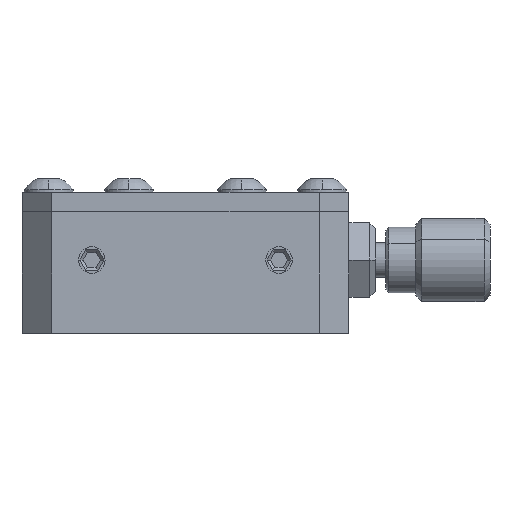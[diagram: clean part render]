
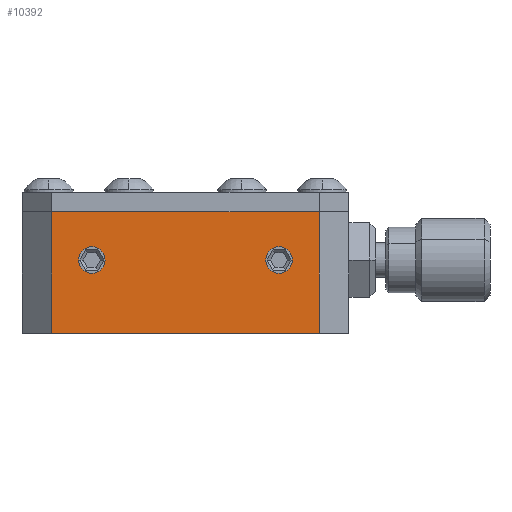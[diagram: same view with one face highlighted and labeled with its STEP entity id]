
A CAD part, front view. The second image highlights one B-rep face of the part: STEP entity #10392.
In plain terms, the highlighted planar face has unit normal (0, -1, 0).
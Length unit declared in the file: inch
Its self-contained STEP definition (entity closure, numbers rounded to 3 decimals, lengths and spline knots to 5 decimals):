
#72 = AXIS2_PLACEMENT_3D ( 'NONE', #31446, #14493, #34272 ) ;
#416 = ORIENTED_EDGE ( 'NONE', *, *, #6882, .F. ) ;
#1156 = CARTESIAN_POINT ( 'NONE',  ( -0.3218, -0.52574, -0.1334 ) ) ;
#2518 = EDGE_LOOP ( 'NONE', ( #23769, #34359 ) ) ;
#2927 = EDGE_CURVE ( 'NONE', #8785, #13438, #16876, .T. ) ;
#3390 = CIRCLE ( 'NONE', #34064, 0.0445 ) ;
#3573 = CARTESIAN_POINT ( 'NONE',  ( -0.3218, -0.52574, -0.1334 ) ) ;
#3694 = CARTESIAN_POINT ( 'NONE',  ( 0.3082, -0.52574, -0.0889 ) ) ;
#4003 = DIRECTION ( 'NONE',  ( 0., 0., -1. ) ) ;
#4028 = VECTOR ( 'NONE', #19243, 39.37008 ) ;
#4897 = LINE ( 'NONE', #30551, #4028 ) ;
#5958 = EDGE_CURVE ( 'NONE', #6004, #34971, #12552, .T. ) ;
#6004 = VERTEX_POINT ( 'NONE', #3694 ) ;
#6381 = DIRECTION ( 'NONE',  ( 0., 0., -1. ) ) ;
#6882 = EDGE_CURVE ( 'NONE', #34971, #6004, #26459, .T. ) ;
#7721 = DIRECTION ( 'NONE',  ( 0., 1., 0. ) ) ;
#7819 = DIRECTION ( 'NONE',  ( -1., 0., 0. ) ) ;
#7874 = FACE_BOUND ( 'NONE', #11134, .T. ) ;
#8055 = EDGE_CURVE ( 'NONE', #19258, #24449, #3390, .T. ) ;
#8201 = DIRECTION ( 'NONE',  ( 0., -1., 0. ) ) ;
#8544 = VECTOR ( 'NONE', #19260, 39.37008 ) ;
#8785 = VERTEX_POINT ( 'NONE', #32626 ) ;
#10322 = PLANE ( 'NONE',  #28462 ) ;
#10392 = ADVANCED_FACE ( 'NONE', ( #7874, #30373, #15341 ), #10322, .F. ) ;
#10533 = ORIENTED_EDGE ( 'NONE', *, *, #31584, .F. ) ;
#11134 = EDGE_LOOP ( 'NONE', ( #416, #19330 ) ) ;
#11495 = CIRCLE ( 'NONE', #36611, 0.0445 ) ;
#11549 = CARTESIAN_POINT ( 'NONE',  ( -0.3218, -0.52574, -0.1779 ) ) ;
#12552 = CIRCLE ( 'NONE', #72, 0.0445 ) ;
#12629 = CARTESIAN_POINT ( 'NONE',  ( -0.4568, -0.52574, -0.3804 ) ) ;
#13126 = ORIENTED_EDGE ( 'NONE', *, *, #2927, .T. ) ;
#13139 = VECTOR ( 'NONE', #7819, 39.37008 ) ;
#13438 = VERTEX_POINT ( 'NONE', #21442 ) ;
#14493 = DIRECTION ( 'NONE',  ( 0., -1., 0. ) ) ;
#14935 = EDGE_CURVE ( 'NONE', #13438, #31288, #4897, .T. ) ;
#15341 = FACE_OUTER_BOUND ( 'NONE', #32007, .T. ) ;
#15436 = EDGE_CURVE ( 'NONE', #8785, #24688, #20604, .T. ) ;
#15469 = ORIENTED_EDGE ( 'NONE', *, *, #15436, .F. ) ;
#16876 = LINE ( 'NONE', #24249, #8544 ) ;
#17274 = AXIS2_PLACEMENT_3D ( 'NONE', #25050, #8201, #27931 ) ;
#17891 = EDGE_CURVE ( 'NONE', #24449, #19258, #11495, .T. ) ;
#18968 = CARTESIAN_POINT ( 'NONE',  ( -0.0068, -0.52574, -0.3804 ) ) ;
#19243 = DIRECTION ( 'NONE',  ( -1., 0., 0. ) ) ;
#19258 = VERTEX_POINT ( 'NONE', #31796 ) ;
#19260 = DIRECTION ( 'NONE',  ( 0., 0., 1. ) ) ;
#19330 = ORIENTED_EDGE ( 'NONE', *, *, #5958, .F. ) ;
#20604 = LINE ( 'NONE', #18968, #13139 ) ;
#20808 = DIRECTION ( 'NONE',  ( 0., -1., 0. ) ) ;
#21442 = CARTESIAN_POINT ( 'NONE',  ( 0.4432, -0.52574, 0.0296 ) ) ;
#23217 = DIRECTION ( 'NONE',  ( 0., -1., 0. ) ) ;
#23769 = ORIENTED_EDGE ( 'NONE', *, *, #17891, .F. ) ;
#23791 = CARTESIAN_POINT ( 'NONE',  ( -0.4568, -0.52574, -0.3804 ) ) ;
#24249 = CARTESIAN_POINT ( 'NONE',  ( 0.4432, -0.52574, -0.3804 ) ) ;
#24449 = VERTEX_POINT ( 'NONE', #11549 ) ;
#24575 = CARTESIAN_POINT ( 'NONE',  ( -0.0068, -0.52574, -0.3804 ) ) ;
#24688 = VERTEX_POINT ( 'NONE', #12629 ) ;
#25050 = CARTESIAN_POINT ( 'NONE',  ( 0.3082, -0.52574, -0.1334 ) ) ;
#26299 = CARTESIAN_POINT ( 'NONE',  ( 0.3082, -0.52574, -0.1779 ) ) ;
#26459 = CIRCLE ( 'NONE', #17274, 0.0445 ) ;
#26642 = DIRECTION ( 'NONE',  ( 0., 0., 1. ) ) ;
#27447 = ORIENTED_EDGE ( 'NONE', *, *, #14935, .T. ) ;
#27449 = DIRECTION ( 'NONE',  ( -1., 0., 0. ) ) ;
#27931 = DIRECTION ( 'NONE',  ( 0., 0., -1. ) ) ;
#28462 = AXIS2_PLACEMENT_3D ( 'NONE', #24575, #7721, #27449 ) ;
#30373 = FACE_BOUND ( 'NONE', #2518, .T. ) ;
#30551 = CARTESIAN_POINT ( 'NONE',  ( -0.0068, -0.52574, 0.0296 ) ) ;
#31288 = VERTEX_POINT ( 'NONE', #35594 ) ;
#31446 = CARTESIAN_POINT ( 'NONE',  ( 0.3082, -0.52574, -0.1334 ) ) ;
#31584 = EDGE_CURVE ( 'NONE', #24688, #31288, #36150, .T. ) ;
#31796 = CARTESIAN_POINT ( 'NONE',  ( -0.3218, -0.52574, -0.0889 ) ) ;
#32007 = EDGE_LOOP ( 'NONE', ( #27447, #10533, #15469, #13126 ) ) ;
#32618 = VECTOR ( 'NONE', #26642, 39.37008 ) ;
#32626 = CARTESIAN_POINT ( 'NONE',  ( 0.4432, -0.52574, -0.3804 ) ) ;
#34064 = AXIS2_PLACEMENT_3D ( 'NONE', #3573, #23217, #6381 ) ;
#34272 = DIRECTION ( 'NONE',  ( 0., 0., -1. ) ) ;
#34359 = ORIENTED_EDGE ( 'NONE', *, *, #8055, .F. ) ;
#34971 = VERTEX_POINT ( 'NONE', #26299 ) ;
#35594 = CARTESIAN_POINT ( 'NONE',  ( -0.4568, -0.52574, 0.0296 ) ) ;
#36150 = LINE ( 'NONE', #23791, #32618 ) ;
#36611 = AXIS2_PLACEMENT_3D ( 'NONE', #1156, #20808, #4003 ) ;
